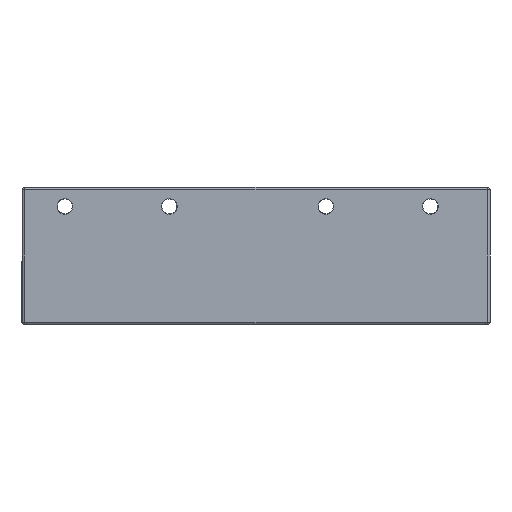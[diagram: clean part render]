
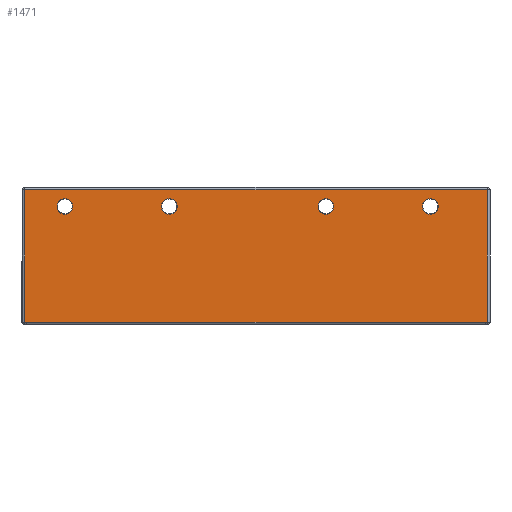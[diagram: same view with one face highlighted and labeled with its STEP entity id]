
A CAD part, left-side view. The second image highlights one B-rep face of the part: STEP entity #1471.
In plain terms, the highlighted planar face has unit normal (-1, 0, 0) as drawn and (0, 1, 0) by its records, which use the part's own axes.
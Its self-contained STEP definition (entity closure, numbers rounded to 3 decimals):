
#279 = ORIENTED_EDGE ( 'NONE', *, *, #9875, .T. ) ;
#325 = DIRECTION ( 'NONE',  ( 0., 1., 0. ) ) ;
#354 = DIRECTION ( 'NONE',  ( 0., 0., 1. ) ) ;
#431 = CARTESIAN_POINT ( 'NONE',  ( -21., 244., -31.8 ) ) ;
#435 = ORIENTED_EDGE ( 'NONE', *, *, #2301, .F. ) ;
#623 = EDGE_CURVE ( 'NONE', #2427, #11282, #7051, .T. ) ;
#671 = ORIENTED_EDGE ( 'NONE', *, *, #12791, .T. ) ;
#678 = AXIS2_PLACEMENT_3D ( 'NONE', #3139, #2003, #11156 ) ;
#1095 = VERTEX_POINT ( 'NONE', #3788 ) ;
#1192 = LINE ( 'NONE', #11293, #10985 ) ;
#1457 = DIRECTION ( 'NONE',  ( 0., 1., 0. ) ) ;
#1471 = ADVANCED_FACE ( 'NONE', ( #2701, #1497, #10579, #5742, #4596 ), #11740, .T. ) ;
#1497 = FACE_BOUND ( 'NONE', #6485, .T. ) ;
#1898 = CARTESIAN_POINT ( 'NONE',  ( 21., 244., -31.8 ) ) ;
#1924 = EDGE_CURVE ( 'NONE', #9762, #6224, #6147, .T. ) ;
#1999 = AXIS2_PLACEMENT_3D ( 'NONE', #12841, #325, #3478 ) ;
#2003 = DIRECTION ( 'NONE',  ( 0., 1., 0. ) ) ;
#2301 = EDGE_CURVE ( 'NONE', #7294, #6149, #3277, .T. ) ;
#2399 = EDGE_LOOP ( 'NONE', ( #7151, #435 ) ) ;
#2427 = VERTEX_POINT ( 'NONE', #7993 ) ;
#2556 = VERTEX_POINT ( 'NONE', #12415 ) ;
#2701 = FACE_BOUND ( 'NONE', #3477, .T. ) ;
#2808 = CARTESIAN_POINT ( 'NONE',  ( -49., 244., -31.8 ) ) ;
#3139 = CARTESIAN_POINT ( 'NONE',  ( -21., 244., -31.8 ) ) ;
#3264 = CARTESIAN_POINT ( 'NONE',  ( -49., 244., -33.9 ) ) ;
#3277 = CIRCLE ( 'NONE', #1999, 2.1 ) ;
#3293 = ORIENTED_EDGE ( 'NONE', *, *, #1924, .F. ) ;
#3320 = AXIS2_PLACEMENT_3D ( 'NONE', #8831, #10846, #354 ) ;
#3477 = EDGE_LOOP ( 'NONE', ( #10587, #3293 ) ) ;
#3478 = DIRECTION ( 'NONE',  ( 0., 0., 1. ) ) ;
#3681 = DIRECTION ( 'NONE',  ( 0., 0., 1. ) ) ;
#3684 = AXIS2_PLACEMENT_3D ( 'NONE', #6385, #1457, #6518 ) ;
#3788 = CARTESIAN_POINT ( 'NONE',  ( 64.2, 244., -0.8 ) ) ;
#4002 = EDGE_CURVE ( 'NONE', #6149, #7294, #13042, .T. ) ;
#4104 = VECTOR ( 'NONE', #12354, 1000. ) ;
#4333 = CIRCLE ( 'NONE', #678, 2.1 ) ;
#4466 = VERTEX_POINT ( 'NONE', #12816 ) ;
#4523 = CARTESIAN_POINT ( 'NONE',  ( 21., 244., -29.7 ) ) ;
#4532 = DIRECTION ( 'NONE',  ( 0., 1., 0. ) ) ;
#4596 = FACE_OUTER_BOUND ( 'NONE', #9295, .T. ) ;
#4613 = DIRECTION ( 'NONE',  ( 0., 1., 0. ) ) ;
#4679 = CARTESIAN_POINT ( 'NONE',  ( -49., 244., -29.7 ) ) ;
#5305 = CARTESIAN_POINT ( 'NONE',  ( 21., 244., -33.9 ) ) ;
#5359 = LINE ( 'NONE', #11408, #4104 ) ;
#5420 = CIRCLE ( 'NONE', #3684, 2.1 ) ;
#5567 = CARTESIAN_POINT ( 'NONE',  ( -60.5, 244., -36.2 ) ) ;
#5742 = FACE_BOUND ( 'NONE', #2399, .T. ) ;
#5973 = DIRECTION ( 'NONE',  ( 0., 0., 1. ) ) ;
#6147 = CIRCLE ( 'NONE', #6575, 2.1 ) ;
#6149 = VERTEX_POINT ( 'NONE', #9732 ) ;
#6224 = VERTEX_POINT ( 'NONE', #4679 ) ;
#6385 = CARTESIAN_POINT ( 'NONE',  ( 21., 244., -31.8 ) ) ;
#6485 = EDGE_LOOP ( 'NONE', ( #11414, #10361 ) ) ;
#6518 = DIRECTION ( 'NONE',  ( 0., 0., 1. ) ) ;
#6546 = DIRECTION ( 'NONE',  ( 0., 1., 0. ) ) ;
#6554 = VERTEX_POINT ( 'NONE', #4523 ) ;
#6575 = AXIS2_PLACEMENT_3D ( 'NONE', #7550, #6546, #10633 ) ;
#6837 = CARTESIAN_POINT ( 'NONE',  ( -59.7, 244., -0.8 ) ) ;
#7051 = LINE ( 'NONE', #10201, #8779 ) ;
#7060 = DIRECTION ( 'NONE',  ( 0., 0., -1. ) ) ;
#7132 = ORIENTED_EDGE ( 'NONE', *, *, #12883, .F. ) ;
#7151 = ORIENTED_EDGE ( 'NONE', *, *, #4002, .F. ) ;
#7294 = VERTEX_POINT ( 'NONE', #11298 ) ;
#7402 = EDGE_LOOP ( 'NONE', ( #7132, #10140 ) ) ;
#7418 = VERTEX_POINT ( 'NONE', #7527 ) ;
#7516 = CARTESIAN_POINT ( 'NONE',  ( 49., 244., -31.8 ) ) ;
#7527 = CARTESIAN_POINT ( 'NONE',  ( -21., 244., -33.9 ) ) ;
#7550 = CARTESIAN_POINT ( 'NONE',  ( -49., 244., -31.8 ) ) ;
#7688 = EDGE_CURVE ( 'NONE', #11282, #1095, #5359, .T. ) ;
#7833 = ORIENTED_EDGE ( 'NONE', *, *, #623, .T. ) ;
#7993 = CARTESIAN_POINT ( 'NONE',  ( -59.7, 244., -36.2 ) ) ;
#8591 = LINE ( 'NONE', #5567, #12314 ) ;
#8779 = VECTOR ( 'NONE', #5973, 1000. ) ;
#8831 = CARTESIAN_POINT ( 'NONE',  ( -104.308, 244., 1025.806 ) ) ;
#8851 = CIRCLE ( 'NONE', #10565, 2.1 ) ;
#8954 = VERTEX_POINT ( 'NONE', #5305 ) ;
#9109 = DIRECTION ( 'NONE',  ( 0., 0., 1. ) ) ;
#9192 = AXIS2_PLACEMENT_3D ( 'NONE', #431, #4532, #12758 ) ;
#9295 = EDGE_LOOP ( 'NONE', ( #279, #7833, #11030, #671 ) ) ;
#9732 = CARTESIAN_POINT ( 'NONE',  ( 49., 244., -29.7 ) ) ;
#9762 = VERTEX_POINT ( 'NONE', #3264 ) ;
#9875 = EDGE_CURVE ( 'NONE', #2556, #2427, #8591, .T. ) ;
#10134 = AXIS2_PLACEMENT_3D ( 'NONE', #1898, #12069, #9109 ) ;
#10140 = ORIENTED_EDGE ( 'NONE', *, *, #11864, .F. ) ;
#10201 = CARTESIAN_POINT ( 'NONE',  ( -59.7, 244., 0. ) ) ;
#10261 = AXIS2_PLACEMENT_3D ( 'NONE', #7516, #4613, #11696 ) ;
#10361 = ORIENTED_EDGE ( 'NONE', *, *, #12812, .F. ) ;
#10565 = AXIS2_PLACEMENT_3D ( 'NONE', #2808, #13100, #3681 ) ;
#10579 = FACE_BOUND ( 'NONE', #7402, .T. ) ;
#10587 = ORIENTED_EDGE ( 'NONE', *, *, #12686, .F. ) ;
#10633 = DIRECTION ( 'NONE',  ( 0., 0., 1. ) ) ;
#10846 = DIRECTION ( 'NONE',  ( 0., 1., 0. ) ) ;
#10985 = VECTOR ( 'NONE', #7060, 1000. ) ;
#11030 = ORIENTED_EDGE ( 'NONE', *, *, #7688, .T. ) ;
#11156 = DIRECTION ( 'NONE',  ( 0., 0., 1. ) ) ;
#11282 = VERTEX_POINT ( 'NONE', #6837 ) ;
#11293 = CARTESIAN_POINT ( 'NONE',  ( 64.2, 244., -36.2 ) ) ;
#11298 = CARTESIAN_POINT ( 'NONE',  ( 49., 244., -33.9 ) ) ;
#11408 = CARTESIAN_POINT ( 'NONE',  ( 65., 244., -0.8 ) ) ;
#11414 = ORIENTED_EDGE ( 'NONE', *, *, #11712, .F. ) ;
#11445 = CIRCLE ( 'NONE', #10134, 2.1 ) ;
#11696 = DIRECTION ( 'NONE',  ( 0., 0., 1. ) ) ;
#11712 = EDGE_CURVE ( 'NONE', #4466, #7418, #13276, .T. ) ;
#11740 = PLANE ( 'NONE',  #3320 ) ;
#11864 = EDGE_CURVE ( 'NONE', #8954, #6554, #11445, .T. ) ;
#12069 = DIRECTION ( 'NONE',  ( 0., 1., 0. ) ) ;
#12314 = VECTOR ( 'NONE', #12890, 1000. ) ;
#12354 = DIRECTION ( 'NONE',  ( 1., 0., 0. ) ) ;
#12415 = CARTESIAN_POINT ( 'NONE',  ( 64.2, 244., -36.2 ) ) ;
#12686 = EDGE_CURVE ( 'NONE', #6224, #9762, #8851, .T. ) ;
#12758 = DIRECTION ( 'NONE',  ( 0., 0., 1. ) ) ;
#12791 = EDGE_CURVE ( 'NONE', #1095, #2556, #1192, .T. ) ;
#12812 = EDGE_CURVE ( 'NONE', #7418, #4466, #4333, .T. ) ;
#12816 = CARTESIAN_POINT ( 'NONE',  ( -21., 244., -29.7 ) ) ;
#12841 = CARTESIAN_POINT ( 'NONE',  ( 49., 244., -31.8 ) ) ;
#12883 = EDGE_CURVE ( 'NONE', #6554, #8954, #5420, .T. ) ;
#12890 = DIRECTION ( 'NONE',  ( -1., 0., 0. ) ) ;
#13042 = CIRCLE ( 'NONE', #10261, 2.1 ) ;
#13100 = DIRECTION ( 'NONE',  ( 0., 1., 0. ) ) ;
#13276 = CIRCLE ( 'NONE', #9192, 2.1 ) ;
